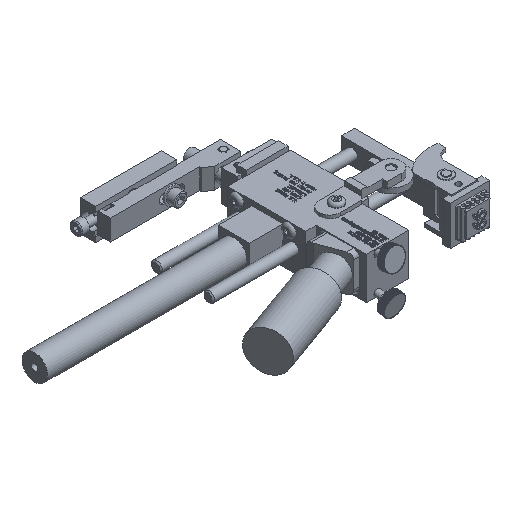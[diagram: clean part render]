
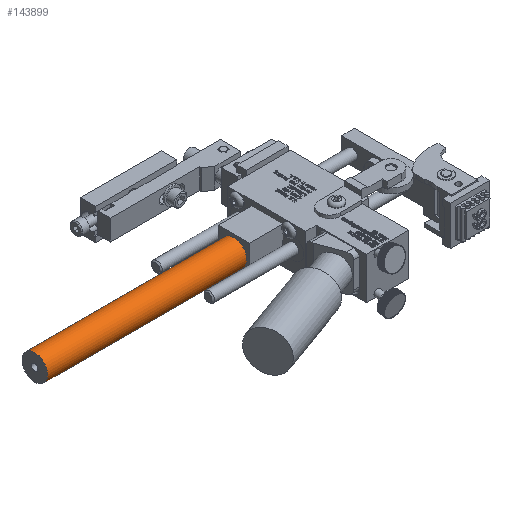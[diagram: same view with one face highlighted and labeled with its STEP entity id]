
A CAD part, isometric view. The second image highlights one B-rep face of the part: STEP entity #143899.
In plain terms, the highlighted cylindrical face has radius 7.747 mm (diameter 15.494 mm), a full revolution.
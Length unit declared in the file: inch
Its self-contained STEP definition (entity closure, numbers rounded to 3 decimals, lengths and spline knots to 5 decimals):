
#143872=CARTESIAN_POINT('',(0.2202,0.36387,0.375));
#143873=DIRECTION('',(1.0,0.,0.0));
#143874=DIRECTION('',(0.0,0.0,1.0));
#143875=AXIS2_PLACEMENT_3D('',#143872,#143873,#143874);
#143876=CYLINDRICAL_SURFACE('',#143875,0.305);
#143877=CARTESIAN_POINT('',(4.9752,0.36387,0.07));
#143878=VERTEX_POINT('',#143877);
#143879=CARTESIAN_POINT('',(4.9752,0.36387,0.375));
#143880=DIRECTION('',(-1.0,0.0,0.0));
#143881=DIRECTION('',(0.0,0.0,1.0));
#143882=AXIS2_PLACEMENT_3D('',#143879,#143880,#143881);
#143883=CIRCLE('',#143882,0.305);
#143884=EDGE_CURVE('',#143878,#143878,#143883,.T.);
#143885=ORIENTED_EDGE('',*,*,#143884,.T.);
#143886=EDGE_LOOP('',(#143885));
#143887=FACE_OUTER_BOUND('',#143886,.T.);
#143888=CARTESIAN_POINT('',(0.2202,0.36387,0.07));
#143889=VERTEX_POINT('',#143888);
#143890=CARTESIAN_POINT('',(0.2202,0.36387,0.375));
#143891=DIRECTION('',(-1.0,0.0,0.0));
#143892=DIRECTION('',(0.0,0.0,1.0));
#143893=AXIS2_PLACEMENT_3D('',#143890,#143891,#143892);
#143894=CIRCLE('',#143893,0.305);
#143895=EDGE_CURVE('',#143889,#143889,#143894,.T.);
#143896=ORIENTED_EDGE('',*,*,#143895,.F.);
#143897=EDGE_LOOP('',(#143896));
#143898=FACE_BOUND('',#143897,.T.);
#143899=ADVANCED_FACE('',(#143887,#143898),#143876,.T.);
